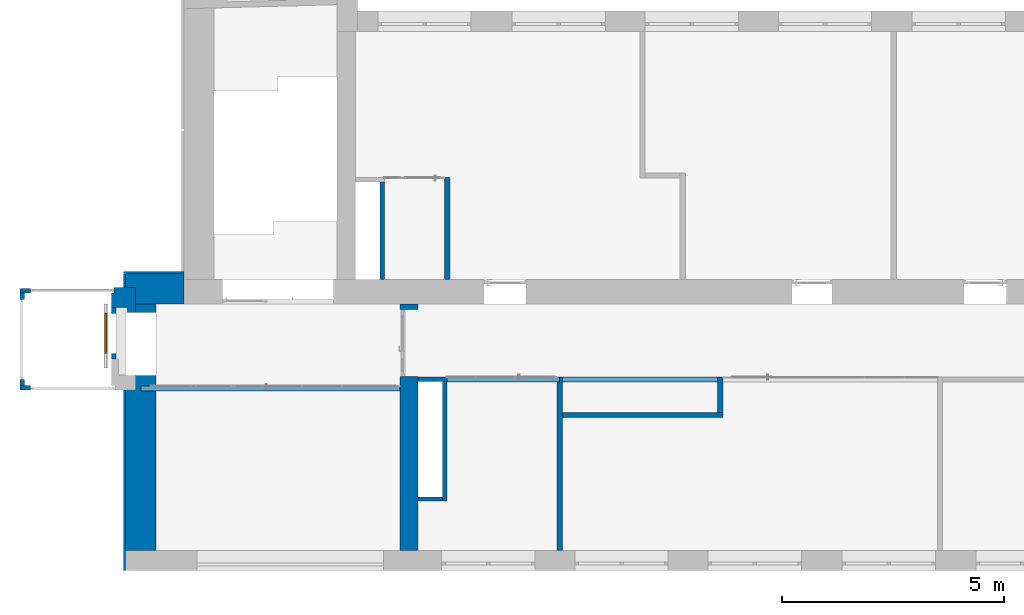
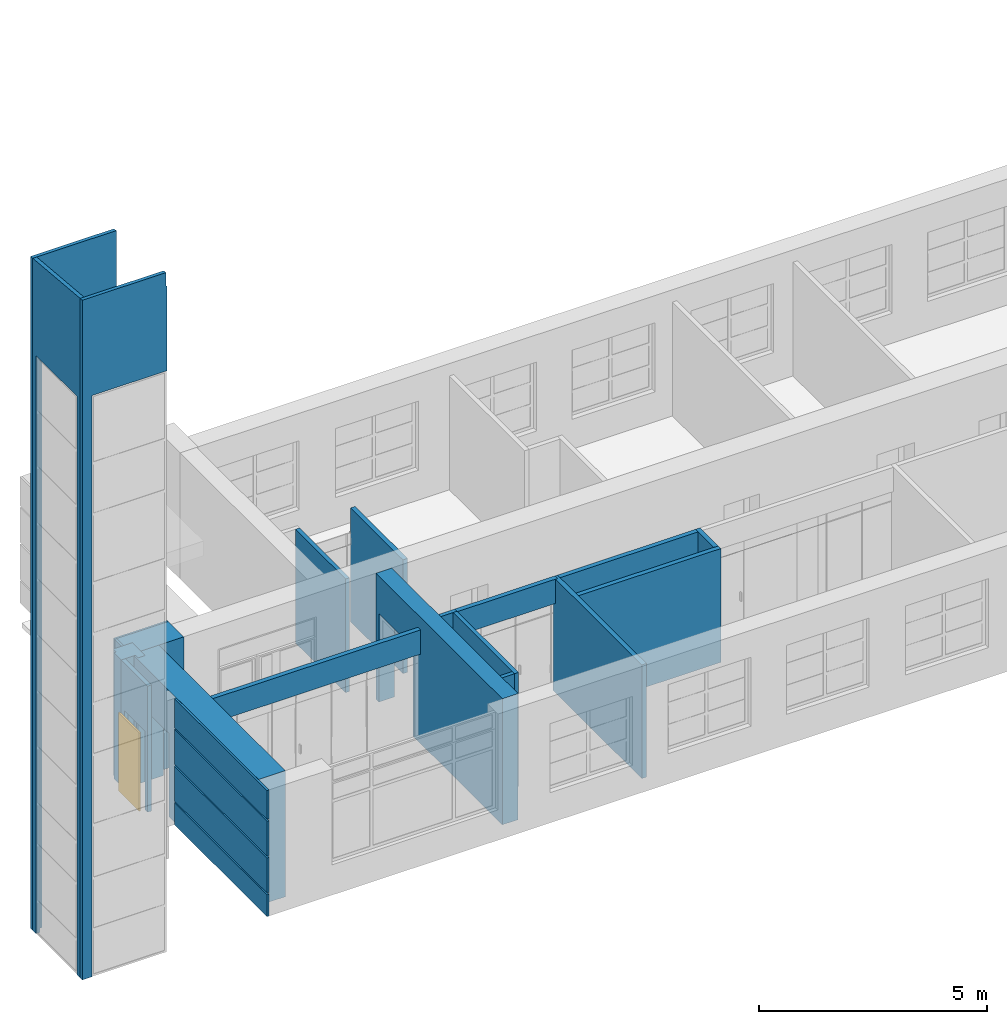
# One storey, part 43 of 66: 21 walls, 1 door, 11 openings.
"""IFC2X3 building model written with IfcOpenShell, lengths in millimetres."""

from ifc_helpers import new_model, entity, si_unit, converted_unit, derived_unit, direction, frame, frame_2d, origin, origin_2d_with_axis, place, context, subcontext, project, spatial, polyline, rectangle, outline, extrude, clip, bounded_halfspace, faceted_brep, source, transform, mapped, material, layer, layer_set, layer_usage, type_object, type_shapes, element, fill, save


model = new_model("IFC2X3")

# Units and contexts
model_context = context("Model", 3, precision=0.01, world=origin(), true_north=direction((6.12303176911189e-17, 1.0)))
body_context = subcontext(model_context, "Body", "Model", "MODEL_VIEW")
ifc_project = project(units=[si_unit("LENGTHUNIT", "METRE", prefix="MILLI"), si_unit("AREAUNIT", "SQUARE_METRE"), si_unit("VOLUMEUNIT", "CUBIC_METRE"), converted_unit("PLANEANGLEUNIT", "DEGREE", entity("IfcRatioMeasure", 0.0174532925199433), si_unit("PLANEANGLEUNIT", "RADIAN"), dimensions=[0, 0, 0, 0, 0, 0, 0]), si_unit("MASSUNIT", "GRAM", prefix="KILO"), derived_unit("MASSDENSITYUNIT", [(si_unit("MASSUNIT", "GRAM", prefix="KILO"), 1), (si_unit("LENGTHUNIT", "METRE"), -3)]), si_unit("TIMEUNIT", "SECOND"), si_unit("FREQUENCYUNIT", "HERTZ"), si_unit("THERMODYNAMICTEMPERATUREUNIT", "DEGREE_CELSIUS"), derived_unit("THERMALTRANSMITTANCEUNIT", [(si_unit("MASSUNIT", "GRAM", prefix="KILO"), 1), (si_unit("THERMODYNAMICTEMPERATUREUNIT", "KELVIN"), -1), (si_unit("TIMEUNIT", "SECOND"), -3)]), derived_unit("VOLUMETRICFLOWRATEUNIT", [(si_unit("LENGTHUNIT", "METRE"), 3), (si_unit("TIMEUNIT", "SECOND"), -1)]), si_unit("ELECTRICCURRENTUNIT", "AMPERE"), si_unit("ELECTRICVOLTAGEUNIT", "VOLT"), si_unit("POWERUNIT", "WATT"), si_unit("FORCEUNIT", "NEWTON", prefix="KILO"), si_unit("ILLUMINANCEUNIT", "LUX"), si_unit("LUMINOUSFLUXUNIT", "LUMEN"), si_unit("LUMINOUSINTENSITYUNIT", "CANDELA"), derived_unit("USERDEFINED", [(si_unit("MASSUNIT", "GRAM", prefix="KILO"), -1), (si_unit("LENGTHUNIT", "METRE"), -2), (si_unit("TIMEUNIT", "SECOND"), 3), (si_unit("LUMINOUSFLUXUNIT", "LUMEN"), 1)]), derived_unit("LINEARVELOCITYUNIT", [(si_unit("LENGTHUNIT", "METRE"), 1), (si_unit("TIMEUNIT", "SECOND"), -1)]), si_unit("PRESSUREUNIT", "PASCAL"), derived_unit("USERDEFINED", [(si_unit("LENGTHUNIT", "METRE"), -2), (si_unit("MASSUNIT", "GRAM", prefix="KILO"), 1), (si_unit("TIMEUNIT", "SECOND"), -2)])], contexts=[model_context])

# Site, building, storey
site_placement = place(None, frame((-151.875543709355, 2715.0, 0.0)))
site = spatial("IfcSite", under=ifc_project, at=site_placement, Name="Surface", CompositionType="ELEMENT")
building_placement = place(site_placement, origin())
building = spatial("IfcBuilding", under=site, at=building_placement, CompositionType="ELEMENT")
storey_placement = place(building_placement, frame((0.0, 0.0, 3350.0)))
storey = spatial("IfcBuildingStorey", under=building, at=storey_placement, Name="2 korrus", CompositionType="ELEMENT", Elevation=3350.00000000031)

# Wall
ifc_material_1 = material(Name="Paint - Sand Beige")
wall_type_1 = type_object("IfcWallType", Name="SEIN - 008", PredefinedType="NOTDEFINED", material=ifc_material_1)
wall_1_placement = place(storey_placement, frame((-541.883383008, 5811.79428101, 0.0), z_axis=(0.0, 0.0, 1.0), x_axis=(0.0, 1.0, 0.0)))
element("IfcWall", 1, at=wall_1_placement, inside=storey, type_object=wall_type_1, material=ifc_material_1, Name="SEIN - 008 48780:SEIN - 008 48780", ObjectType="SEIN - 008 48780:SEIN - 008 48780", context=body_context, shape_type="SweptSolid", body=[
    extrude(outline(polyline([(-157.552994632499, -240.085415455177), (163.395247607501, -240.085415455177), (163.395247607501, 118.497317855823), (281.7118979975, 118.497317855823), (281.7118979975, 301.673513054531), (-287.554150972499, 301.673513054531), (-287.554150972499, -180.085415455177), (-157.552994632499, -180.085415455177), (-157.552994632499, -240.085415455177)])), frame((281.7118979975, -240.085415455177, 0.0), z_axis=(0.0, 0.0, 1.0), x_axis=(-1.0, 0.0, 0.0)), (0.0, 0.0, 1.0), 3380.43203354),
])

# Wall, opening, door
ifc_material_2 = material(Name="Tellis")
ifc_layer_1 = layer(ifc_material_2, 90.0)
ifc_material_3 = material(Name="__Hall krohv")
ifc_layer_2 = layer(ifc_material_3, 10.0)
ifc_layer_set_1 = layer_set([ifc_layer_1, ifc_layer_2], Name="Basic Wall:SS-01_ol.olev tellissein100")
ifc_layer_usage_1 = layer_usage(ifc_layer_set_1, "AXIS2", "NEGATIVE", 50.0)
wall_type_2 = type_object("IfcWallType", Name="Basic Wall:SS-01_ol.olev tellissein100", PredefinedType="STANDARD", material=ifc_layer_set_1)
wall_2_placement = place(storey_placement, frame((-491.883383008, 4771.38562567, 0.0), z_axis=(0.0, 0.0, 1.0), x_axis=(0.0, 1.0, 0.0)))
wall_2 = element("IfcWallStandardCase", 2, at=wall_2_placement, inside=storey, type_object=wall_type_2, material=ifc_layer_usage_1, Name="SEIN - 008", ObjectType="Basic Wall:SS-01_ol.olev tellissein100", context=body_context, shape_type="SweptSolid", body=[
    extrude(rectangle(XDim=1158.72530573, YDim=100.0, at=frame_2d((579.362652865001, 0.0), x_axis=(-1.0, 0.0))), origin(), (0.0, 0.0, 1.0), 3380.43203354),
])
opening_1_placement = place(wall_2_placement, frame((-4771.38562567, -491.883383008, 0.0), z_axis=(0.0, 0.0, 1.0), x_axis=(0.0, -1.0, 0.0)))
opening_1 = element("IfcOpeningElement", 3, at=opening_1_placement, cuts=wall_2, Name="SEIN - 008", ObjectType="Opening", context=body_context, shape_type="SweptSolid", body=[
    extrude(rectangle(XDim=2100.0, YDim=903.930664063, at=frame_2d((5.40012479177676e-13, -2.27373675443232e-13), x_axis=(0.0, 1.0))), frame((-338.883383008, 5344.60067749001, 1050.0), z_axis=(-1.0, 0.0, 0.0), x_axis=(0.0, -1.0, 0.0)), (0.0, 0.0, 1.0), 306.0),
])
ifc_material_4 = material(Name="Wood - Pine Grained Horizontal")
door_style = type_object("IfcDoorStyle", Name="liftiuks", ConstructionType="NOTDEFINED", OperationType="NOTDEFINED", ParameterTakesPrecedence=False, Sizeable=False, material=ifc_material_4)
shared_shape = source(origin(), body_context, "Body", "SweptSolid", [
    extrude(rectangle(XDim=451.965332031, YDim=40.0, at=origin_2d_with_axis()), frame((225.982666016, 22.0, 0.0), z_axis=(0.0, 0.0, 1.0), x_axis=(-1.0, 0.0, 0.0)), (0.0, 0.0, 1.0), 2100.0),
    extrude(rectangle(XDim=40.0, YDim=451.965332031, at=origin_2d_with_axis()), frame((677.947998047, 22.0, 0.0), z_axis=(0.0, 0.0, 1.0), x_axis=(0.0, 1.0, 0.0)), (0.0, 0.0, 1.0), 2100.0),
])
type_shapes(door_style, [shared_shape])
door_placement = place(opening_1_placement, frame((-644.883383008, 4892.63534545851, 0.0), z_axis=(0.0, 0.0, 1.0), x_axis=(0.0, 1.0, 0.0)))
door = element("IfcDoor", 4, at=door_placement, inside=storey, type_object=door_style, material=ifc_material_4, Name="liftiuks:liftiuks", ObjectType="liftiuks", OverallHeight=2100.0, OverallWidth=903.930664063, context=body_context, shape_type="MappedRepresentation", body=[
    mapped(shared_shape, transform((0.0, 0.0, 0.0), scale=1.0)),
])
fill(opening_1, door)

# Wall, opening
ifc_material_5 = material(Name="__Tuuletõkkeplaat")
ifc_layer_3 = layer(ifc_material_5, 9.0)
ifc_material_6 = material(Name="__Soojustus EPS")
ifc_layer_4 = layer(ifc_material_6, 200.0)
ifc_material_7 = material(Name="Brick, Common")
ifc_layer_5 = layer(ifc_material_7, 450.0)
ifc_material_8 = material(Name="__Kips GN13_tava")
ifc_layer_6 = layer(ifc_material_8, 20.0)
ifc_layer_set_2 = layer_set([ifc_layer_3, ifc_layer_4, ifc_layer_5, ifc_layer_6], Name="Basic Wall:VS-2_olemasolev sein fassaadikassettidega")
ifc_layer_usage_2 = layer_usage(ifc_layer_set_2, "AXIS2", "NEGATIVE", 339.5)
wall_type_3 = type_object("IfcWallType", Name="Basic Wall:VS-2_olemasolev sein fassaadikassettidega", PredefinedType="STANDARD", material=ifc_layer_set_2)
wall_3_placement = place(storey_placement, frame((120.375545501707, 459.904632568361, 0.0), z_axis=(0.0, 0.0, 1.0), x_axis=(0.0, 1.0, 0.0)))
wall_3 = element("IfcWallStandardCase", 5, at=wall_3_placement, inside=storey, type_object=wall_type_3, material=ifc_layer_usage_2, Name="SEIN - 001", ObjectType="Basic Wall:VS-2_olemasolev sein fassaadikassettidega", context=body_context, shape_type="SweptSolid", body=[
    extrude(rectangle(XDim=5550.09536743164, YDim=679.0, at=frame_2d((2775.04768371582, -5.6843418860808e-14), x_axis=(-1.0, 0.0))), origin(), (0.0, 0.0, 1.0), 3380.43203354),
])
opening_2_placement = place(wall_3_placement, origin())
element("IfcOpeningElement", 6, at=opening_2_placement, cuts=wall_3, Name="SEIN - 001", ObjectType="Opening", context=body_context, shape_type="SweptSolid", body=[
    extrude(rectangle(XDim=2230.0, YDim=1410.5172629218, at=frame_2d((0.0, -5.6843418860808e-13), x_axis=(1.0, 0.0))), frame((4646.6310169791, -339.5, 1115.0), z_axis=(0.0, 1.0, 0.0), x_axis=(0.0, 0.0, -1.0)), (0.0, 0.0, 1.0), 679.0),
])

# Wall
ifc_layer_usage_3 = layer_usage(ifc_layer_set_2, "AXIS2", "NEGATIVE", 339.5)
wall_4_placement = place(storey_placement, frame((-219.124454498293, 6349.5, 0.0)))
element("IfcWallStandardCase", 7, at=wall_4_placement, inside=storey, type_object=wall_type_3, material=ifc_layer_usage_3, Name="SEIN - 002", ObjectType="Basic Wall:VS-2_olemasolev sein fassaadikassettidega", context=body_context, shape_type="SweptSolid", body=[
    extrude(rectangle(XDim=1310.12445449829, YDim=678.999999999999, at=frame_2d((655.062227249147, 0.0), x_axis=(-1.0, 0.0))), origin(), (0.0, 0.0, 1.0), 3380.43203354),
])

# Wall, openings
ifc_material_9 = material(Name="Lifti sein_hall")
ifc_layer_7 = layer(ifc_material_9, 100.0)
ifc_layer_set_3 = layer_set([ifc_layer_7], Name="Basic Wall:ol.olev liftišahti sein")
ifc_layer_usage_4 = layer_usage(ifc_layer_set_3, "AXIS2", "NEGATIVE", 50.0)
wall_type_4 = type_object("IfcWallType", Name="Basic Wall:ol.olev liftišahti sein", PredefinedType="STANDARD", material=ifc_layer_set_3)
wall_5_placement = place(storey_placement, frame((-459.743595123, 4121.05917364, -3350.0), z_axis=(0.0, 0.0, 1.0), x_axis=(-1.0, 0.0, 0.0)))
wall_5 = element("IfcWallStandardCase", 8, at=wall_5_placement, inside=storey, type_object=wall_type_4, material=ifc_layer_usage_4, Name="SEIN - 006", ObjectType="Basic Wall:ol.olev liftišahti sein", context=body_context, shape_type="SweptSolid", body=[
    extrude(rectangle(XDim=2140.380859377, YDim=100.0, at=frame_2d((1070.1904296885, 0.0), x_axis=(-1.0, 0.0))), origin(), (0.0, 0.0, 1.0), 18219.5075525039),
])
opening_3_placement = place(wall_5_placement, frame((19821.7441181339, 17046.8201727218, 16384.3630317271)))
element("IfcOpeningElement", 9, at=opening_3_placement, cuts=wall_5, Name="SEIN - 006", ObjectType="Opening", context=body_context, shape_type="Brep", body=[
    faceted_brep([(-19799.6043302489, -17106.8201727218, 22117.4863914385), (-19799.6043302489, -16986.8201727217, 22173.5767483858), (-54849.5495283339, -16986.8201727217, 22173.5767483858), (-54849.5495283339, -17106.8201727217, 22117.4863914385), (-19799.6043302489, -17106.8201727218, 1418.61529187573), (-54849.5495283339, -17106.8201727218, 1418.61529187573), (-54849.5495283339, -16986.8201727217, 1474.70564882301), (-19799.6043302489, -16986.8201727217, 1474.70564882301), (-19799.6043302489, -16986.8201727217, 1836.04609951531), (-19799.6043302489, -17106.8201727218, 1825.22715465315), (-19799.6043302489, -16986.8201727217, 20663.6560064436), (-37503.1073768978, -16986.8201727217, 20663.6560064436), (-37503.1073768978, -16986.8201727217, 1836.04609951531), (-37503.1073768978, -17106.8201727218, 1825.22715465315), (-37503.1073768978, -17106.8201727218, 20652.8370615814), (-19799.6043302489, -17106.8201727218, 20652.8370615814), (0.0, -39035.3802598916, 18675.8047074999), (0.0, -1683.77084489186, 22043.3463972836), (-37503.1073768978, -1683.77084489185, 22043.3463972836), (-37503.1073768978, -39035.3802598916, 18675.8047074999), (0.0, -37351.6094149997, 0.0), (-37503.1073768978, -37351.6094149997, 0.0), (-37503.1073768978, 0.0, 3367.54168978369), (0.0, 0.0, 3367.54168978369)], [[[0, 1, 2, 3]], [[4, 5, 6, 7]], [[7, 8, 9, 4]], [[1, 10, 11, 12, 8, 7, 6, 2]], [[2, 6, 5, 3]], [[3, 5, 4, 9, 13, 14, 15, 0]], [[16, 17, 18, 11, 10, 15, 14, 19]], [[20, 21, 13, 9, 8, 12, 22, 23]], [[16, 20, 23, 17]], [[17, 23, 22, 18]], [[19, 14, 13, 21]], [[19, 21, 20, 16]], [[22, 12, 11, 18]], [[0, 15, 10, 1]]]),
])
opening_4_placement = place(wall_5_placement, frame((-459.743595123, 4121.05917364, 3350.0), z_axis=(0.0, 0.0, 1.0), x_axis=(-1.0, 0.0, 0.0)))
element("IfcOpeningElement", 10, at=opening_4_placement, cuts=wall_5, Name="SEIN - 006", ObjectType="Opening", context=body_context, shape_type="SweptSolid", body=[
    extrude(rectangle(XDim=15579.7043135, YDim=1900.0, at=frame_2d((4.54747350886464e-13, 0.0), x_axis=(1.0, 0.0))), frame((-1409.743595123, 4272.95917364, 4439.85215673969), z_axis=(0.0, -1.0, 0.0), x_axis=(0.0, 0.0, 1.0)), (0.0, 0.0, 1.0), 303.0),
])

ifc_layer_usage_5 = layer_usage(ifc_layer_set_3, "AXIS2", "NEGATIVE", 50.0)
wall_6_placement = place(storey_placement, frame((-2600.1244545, 6301.05917364, -3350.0)))
wall_6 = element("IfcWallStandardCase", 11, at=wall_6_placement, inside=storey, type_object=wall_type_4, material=ifc_layer_usage_5, Name="SEIN - 008", ObjectType="Basic Wall:ol.olev liftišahti sein", context=body_context, shape_type="SweptSolid", body=[
    extrude(rectangle(XDim=2118.24107149, YDim=99.9999999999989, at=frame_2d((1059.120535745, 0.0), x_axis=(-1.0, 0.0))), origin(), (0.0, 0.0, 1.0), 18022.9633874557),
])
opening_5_placement = place(wall_6_placement, frame((0.0, -60.0, 18013.046021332)))
element("IfcOpeningElement", 12, at=opening_5_placement, cuts=wall_6, Name="SEIN - 008", ObjectType="Opening", context=body_context, shape_type="Brep", body=[
    faceted_brep([(2600.01, 0.0, 18835.862710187), (2600.01, 120.0, 18825.0437653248), (0.0, 120.0, 18825.0437653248), (0.0, 0.0, 18835.862710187), (2600.01, 0.0, 10.8189448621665), (0.0, 0.0, 10.8189448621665), (0.0, 120.0, 0.0), (2600.01, 120.0, 0.0)], [[[0, 1, 2, 3]], [[4, 5, 6, 7]], [[4, 7, 1, 0]], [[7, 6, 2, 1]], [[6, 5, 3, 2]], [[5, 4, 0, 3]]]),
])
opening_6_placement = place(wall_6_placement, frame((2600.1244545, -6301.05917364, 3350.0)))
element("IfcOpeningElement", 13, at=opening_6_placement, cuts=wall_6, Name="SEIN - 008", ObjectType="Opening", context=body_context, shape_type="SweptSolid", body=[
    extrude(rectangle(XDim=15579.7043135, YDim=1877.86021211, at=frame_2d((0.0, 0.0), x_axis=(0.0, 1.0))), frame((-1420.813489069, 6149.15917364, 4439.85215673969), z_axis=(0.0, 1.0, 0.0), x_axis=(1.0, 0.0, 0.0)), (0.0, 0.0, 1.0), 303.0),
])

ifc_layer_usage_6 = layer_usage(ifc_layer_set_3, "AXIS2", "NEGATIVE", 50.0)
wall_7_placement = place(storey_placement, frame((-2550.1244545, 4171.05917364, -3350.0), z_axis=(0.0, 0.0, 1.0), x_axis=(0.0, 1.0, 0.0)))
wall_7 = element("IfcWallStandardCase", 14, at=wall_7_placement, inside=storey, type_object=wall_type_4, material=ifc_layer_usage_6, Name="SEIN - 007", ObjectType="Basic Wall:ol.olev liftišahti sein", context=body_context, shape_type="SweptSolid", body=[
    extrude(rectangle(XDim=2080.0, YDim=100.0, at=frame_2d((1040.0, 0.0), x_axis=(-1.0, 0.0))), origin(), (0.0, 0.0, 1.0), 18210.4917651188),
])
opening_7_placement = place(wall_7_placement, origin())
element("IfcOpeningElement", 15, at=opening_7_placement, cuts=wall_7, Name="SEIN - 007", ObjectType="Opening", context=body_context, shape_type="SweptSolid", body=[
    extrude(rectangle(XDim=18768.2745218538, YDim=37536.5490437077, at=origin_2d_with_axis()), frame((3502.83210505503, -18768.2745218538, 27316.8831500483), z_axis=(0.0, 1.0, 0.0), x_axis=(-0.0897936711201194, 0.0, -0.995960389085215)), (0.0, 0.0, 1.0), 37536.5490437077),
])
opening_8_placement = place(wall_7_placement, frame((-4171.05917364, -2550.1244545, 3350.0), z_axis=(0.0, 0.0, 1.0), x_axis=(0.0, -1.0, 0.0)))
element("IfcOpeningElement", 16, at=opening_8_placement, cuts=wall_7, Name="SEIN - 007", ObjectType="Opening", context=body_context, shape_type="SweptSolid", body=[
    extrude(rectangle(XDim=15500.0, YDim=1800.0, at=origin_2d_with_axis()), frame((-2398.2244545, 5211.05917364, 4400.0), z_axis=(-1.0, 0.0, 0.0), x_axis=(0.0, 0.0, -1.0)), (0.0, 0.0, 1.0), 303.0),
])

ifc_layer_8 = layer(ifc_material_3, 10.0)
ifc_layer_9 = layer(ifc_material_2, 380.0)
ifc_layer_10 = layer(ifc_material_3, 10.0)
ifc_layer_set_4 = layer_set([ifc_layer_8, ifc_layer_9, ifc_layer_10], Name="Basic Wall:SS-01_ol.olev tellissein400")
ifc_layer_usage_7 = layer_usage(ifc_layer_set_4, "AXIS2", "NEGATIVE", 200.0)
wall_type_5 = type_object("IfcWallType", Name="Basic Wall:SS-01_ol.olev tellissein400", PredefinedType="STANDARD", material=ifc_layer_set_4)
wall_8_placement = place(storey_placement, frame((6162.49352943, 459.904632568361, 0.0), z_axis=(0.0, 0.0, 1.0), x_axis=(0.0, 1.0, 0.0)))
wall_8 = element("IfcWallStandardCase", 17, at=wall_8_placement, inside=storey, type_object=wall_type_5, material=ifc_layer_usage_7, Name="SEIN - 001", ObjectType="Basic Wall:SS-01_ol.olev tellissein400", context=body_context, shape_type="SweptSolid", body=[
    extrude(rectangle(XDim=5550.09536743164, YDim=400.0, at=frame_2d((2775.04768371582, 0.0), x_axis=(-1.0, 0.0))), origin(), (0.0, 0.0, 1.0), 3380.43203354),
])
opening_9_placement = place(wall_8_placement, origin())
element("IfcOpeningElement", 18, at=opening_9_placement, cuts=wall_8, Name="SEIN - 001", ObjectType="Opening", context=body_context, shape_type="SweptSolid", body=[
    extrude(rectangle(XDim=2371.07076645, YDim=1510.16235352, at=origin_2d_with_axis()), frame((4671.45356888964, -200.0, 1185.53538322), z_axis=(0.0, 1.0, 0.0), x_axis=(0.0, 0.0, -1.0)), (0.0, 0.0, 1.0), 800.0),
])
opening_10_placement = place(wall_8_placement, origin())
element("IfcOpeningElement", 19, at=opening_10_placement, cuts=wall_8, Name="SEIN - 001", ObjectType="Opening", context=body_context, shape_type="SweptSolid", body=[
    extrude(rectangle(XDim=2199.99999999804, YDim=1500.0, at=frame_2d((0.0, 5.11590769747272e-13), x_axis=(1.0, 0.0))), frame((4666.37239212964, -1724.0, 4480.42999999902), z_axis=(0.0, 1.0, 0.0), x_axis=(0.0, 0.0, 1.0)), (0.0, 0.0, 1.0), 3048.0),
])
opening_11_placement = place(wall_8_placement, frame((3916.37239212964, -200.0, 0.0)))
element("IfcOpeningElement", 20, at=opening_11_placement, cuts=wall_8, Name="Kahepoolsed:SU-22:1", ObjectType="Opening", context=body_context, shape_type="SweptSolid", body=[
    extrude(rectangle(XDim=2359.99999999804, YDim=1500.0, at=frame_2d((1179.99999999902, 750.0), x_axis=(1.0, 0.0))), frame((0.0, 0.0, 0.0), z_axis=(0.0, 1.0, 0.0), x_axis=(0.0, 0.0, 1.0)), (0.0, 0.0, 1.0), 400.0),
])

# Walls
ifc_layer_11 = layer(ifc_material_8, 12.5)
ifc_layer_12 = layer(ifc_material_8, 12.5)
ifc_layer_13 = layer(ifc_material_6, 66.0)
ifc_layer_14 = layer(ifc_material_8, 12.5)
ifc_layer_15 = layer(ifc_material_8, 12.5)
ifc_layer_set_5 = layer_set([ifc_layer_11, ifc_layer_12, ifc_layer_13, ifc_layer_14, ifc_layer_15], Name="Basic Wall:SS-3_Kipssein tava ruumide vahel")
ifc_layer_usage_8 = layer_usage(ifc_layer_set_5, "AXIS2", "NEGATIVE", 58.0)
wall_type_6 = type_object("IfcWallType", Name="Basic Wall:SS-3_Kipssein tava ruumide vahel", PredefinedType="STANDARD", material=ifc_layer_set_5)
wall_9_placement = place(storey_placement, frame((9557.56472640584, 459.904632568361, 0.0), z_axis=(0.0, 0.0, 1.0), x_axis=(0.0, 1.0, 0.0)))
element("IfcWallStandardCase", 21, at=wall_9_placement, inside=storey, type_object=wall_type_6, material=ifc_layer_usage_8, Name="Basic Wall:SS-3_Kipssein tava ruumide vahel", ObjectType="Basic Wall:SS-3_Kipssein tava ruumide vahel", context=body_context, shape_type="SweptSolid", body=[
    extrude(rectangle(XDim=3905.14030142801, YDim=116.0, at=frame_2d((1952.57015071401, 0.0), x_axis=(-1.0, 0.0))), origin(), (0.0, 0.0, 1.0), 3050.0),
])
ifc_layer_usage_9 = layer_usage(ifc_layer_set_5, "AXIS2", "NEGATIVE", 58.0)
wall_10_placement = place(storey_placement, frame((120.375545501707, 4107.0414627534, 2400.0)))
element("IfcWallStandardCase", 22, at=wall_10_placement, inside=storey, type_object=wall_type_6, material=ifc_layer_usage_9, Name="Basic Wall:SS-3_Kipssein tava ruumide vahel", ObjectType="Basic Wall:SS-3_Kipssein tava ruumide vahel", context=body_context, shape_type="SweptSolid", body=[
    extrude(rectangle(XDim=5842.11798392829, YDim=116.0, at=frame_2d((2921.05899196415, -6.75015598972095e-14), x_axis=(-1.0, 0.0))), origin(), (0.0, 0.0, 1.0), 650.432033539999),
])
ifc_layer_usage_10 = layer_usage(ifc_layer_set_5, "AXIS2", "NEGATIVE", 58.0)
wall_11_placement = place(storey_placement, frame((7012.49352943, 4307.04493399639, 2400.0)))
element("IfcWallStandardCase", 23, at=wall_11_placement, inside=storey, type_object=wall_type_6, material=ifc_layer_usage_10, Name="Basic Wall:SS-3_Kipssein tava ruumide vahel", ObjectType="Basic Wall:SS-3_Kipssein tava ruumide vahel", context=body_context, shape_type="SweptSolid", body=[
    extrude(rectangle(XDim=2545.07119697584, YDim=116.0, at=frame_2d((1272.53559848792, 6.3948846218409e-14), x_axis=(-1.0, 0.0))), origin(), (0.0, 0.0, 1.0), 650.432033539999),
])
ifc_layer_usage_11 = layer_usage(ifc_layer_set_5, "AXIS2", "POSITIVE", -58.0)
wall_12_placement = place(storey_placement, frame((9615.56472640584, 3507.04493399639, 0.0)))
element("IfcWallStandardCase", 24, at=wall_12_placement, inside=storey, type_object=wall_type_6, material=ifc_layer_usage_11, Name="Basic Wall:SS-3_Kipssein tava ruumide vahel", ObjectType="Basic Wall:SS-3_Kipssein tava ruumide vahel", context=body_context, shape_type="SweptSolid", body=[
    extrude(rectangle(XDim=3616.00000000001, YDim=116.0, at=frame_2d((1808.0, 1.95399252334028e-13), x_axis=(-1.0, 0.0))), origin(), (0.0, 0.0, 1.0), 3050.0),
])
ifc_layer_usage_12 = layer_usage(ifc_layer_set_5, "AXIS2", "POSITIVE", -58.0)
wall_13_placement = place(storey_placement, frame((13173.5647264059, 3565.0449339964, 0.0), z_axis=(0.0, 0.0, 1.0), x_axis=(0.0, 1.0, 0.0)))
element("IfcWallStandardCase", 25, at=wall_13_placement, inside=storey, type_object=wall_type_6, material=ifc_layer_usage_12, Name="Basic Wall:SS-3_Kipssein tava ruumide vahel", ObjectType="Basic Wall:SS-3_Kipssein tava ruumide vahel", context=body_context, shape_type="SweptSolid", body=[
    extrude(rectangle(XDim=799.999999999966, YDim=116.0, at=frame_2d((399.999999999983, 0.0), x_axis=(-1.0, 0.0))), origin(), (0.0, 0.0, 1.0), 3050.0),
])
ifc_layer_usage_13 = layer_usage(ifc_layer_set_5, "AXIS2", "NEGATIVE", 58.0)
wall_14_placement = place(storey_placement, frame((7023.82447346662, 8860.0, 0.0), z_axis=(0.0, 0.0, 1.0), x_axis=(0.0, -1.0, 0.0)))
element("IfcWallStandardCase", 26, at=wall_14_placement, inside=storey, type_object=wall_type_6, material=ifc_layer_usage_13, Name="Basic Wall:SS-3_Kipssein tava ruumide vahel", ObjectType="Basic Wall:SS-3_Kipssein tava ruumide vahel", context=body_context, shape_type="SweptSolid", body=[
    extrude(rectangle(XDim=2299.99999999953, YDim=116.0, at=frame_2d((1149.99999999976, -3.48165940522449e-13), x_axis=(-1.0, 0.0))), origin(), (0.0, 0.0, 1.0), 3050.0),
])
ifc_layer_usage_14 = layer_usage(ifc_layer_set_5, "AXIS2", "NEGATIVE", 58.0)
wall_15_placement = place(storey_placement, frame((9557.56472640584, 4307.04493399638, 2400.0)))
element("IfcWallStandardCase", 27, at=wall_15_placement, inside=storey, type_object=wall_type_6, material=ifc_layer_usage_14, Name="Basic Wall:SS-3_Kipssein tava ruumide vahel", ObjectType="Basic Wall:SS-3_Kipssein tava ruumide vahel", context=body_context, shape_type="SweptSolid", body=[
    extrude(rectangle(XDim=3500.00000000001, YDim=116.0, at=frame_2d((1808.0, -1.74082970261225e-13), x_axis=(-1.0, 0.0))), origin(), (0.0, 0.0, 1.0), 650.432033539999),
])
ifc_material_10 = material(Name="__Helehall")
ifc_layer_16 = layer(ifc_material_10, 10.0)
ifc_material_11 = material(Name="__Kergblokk")
ifc_layer_17 = layer(ifc_material_11, 90.0)
ifc_layer_set_6 = layer_set([ifc_layer_16, ifc_layer_17], Name="Basic Wall:SS-6_Šahti sein EI-60")
ifc_layer_usage_15 = layer_usage(ifc_layer_set_6, "AXIS2", "NEGATIVE", 50.0)
wall_type_7 = type_object("IfcWallType", Name="Basic Wall:SS-6_Šahti sein EI-60", PredefinedType="STANDARD", material=ifc_layer_set_6)
wall_16_placement = place(storey_placement, frame((5560.07439884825, 8760.0, 0.0), z_axis=(0.0, 0.0, 1.0), x_axis=(0.0, -1.0, 0.0)))
element("IfcWallStandardCase", 28, at=wall_16_placement, inside=storey, type_object=wall_type_7, material=ifc_layer_usage_15, Name="Basic Wall:SS-6_Šahti sein EI-60", ObjectType="Basic Wall:SS-6_Šahti sein EI-60", context=body_context, shape_type="Clipping", body=[
    clip(extrude(rectangle(XDim=2200.0, YDim=99.9999999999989, at=frame_2d((1100.0, 7.8159700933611e-14), x_axis=(-1.0, 0.0))), origin(), (0.0, 0.0, 1.0), 3050.43203354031), bounded_halfspace(frame((0.0, -50.0, 3050.43203354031), z_axis=(0.0, 0.0, -1.0), x_axis=(-1.0, 0.0, 0.0)), True, frame((0.0, -50.0, 3050.43203354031)), polyline([(0.0, 0.0), (2200.0, 0.0), (2200.0, 100.0), (0.0, 100.0), (0.0, 0.0)]))),
])
ifc_layer_usage_16 = layer_usage(ifc_layer_set_6, "AXIS2", "NEGATIVE", 50.0)
wall_17_placement = place(storey_placement, frame((6362.49352943, 4314.79940713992, 0.0)))
element("IfcWallStandardCase", 29, at=wall_17_placement, inside=storey, type_object=wall_type_7, material=ifc_layer_usage_16, Name="Basic Wall:SS-6_Šahti sein EI-60", ObjectType="Basic Wall:SS-6_Šahti sein EI-60", context=body_context, shape_type="Clipping", body=[
    clip(extrude(rectangle(XDim=650.000000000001, YDim=100.0, at=frame_2d((325.0, -2.48689957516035e-14), x_axis=(-1.0, 0.0))), origin(), (0.0, 0.0, 1.0), 3050.43203354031), bounded_halfspace(frame((0.0, -50.0, 3050.43203354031), z_axis=(0.0, 0.0, -1.0), x_axis=(1.0, 0.0, 0.0)), True, frame((0.0, -50.0, 3050.43203354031)), polyline([(0.0, 0.0), (550.0, 0.0), (650.0, 0.0), (650.0, 100.0), (0.0, 100.0), (0.0, 0.0)]))),
])
ifc_layer_usage_17 = layer_usage(ifc_layer_set_6, "AXIS2", "NEGATIVE", 50.0)
wall_18_placement = place(storey_placement, frame((6962.49352943, 4264.79940713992, 0.0), z_axis=(0.0, 0.0, 1.0), x_axis=(0.0, -1.0, 0.0)))
element("IfcWallStandardCase", 30, at=wall_18_placement, inside=storey, type_object=wall_type_7, material=ifc_layer_usage_17, Name="Basic Wall:SS-6_Šahti sein EI-60", ObjectType="Basic Wall:SS-6_Šahti sein EI-60", context=body_context, shape_type="Clipping", body=[
    clip(extrude(rectangle(XDim=2700.0, YDim=99.9999999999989, at=frame_2d((1350.0, -1.74082970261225e-13), x_axis=(-1.0, 0.0))), origin(), (0.0, 0.0, 1.0), 3050.43203354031), bounded_halfspace(frame((0.0, -50.0, 3050.43203354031), z_axis=(0.0, 0.0, -1.0), x_axis=(0.0, 1.0, 0.0)), True, frame((0.0, -50.0, 3050.43203354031)), polyline([(0.0, 0.0), (2600.0, 0.0), (2700.0, 0.0), (2700.0, 100.0), (15.7544731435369, 100.0), (0.0, 100.0), (0.0, 0.0)]))),
])
ifc_layer_usage_18 = layer_usage(ifc_layer_set_6, "AXIS2", "NEGATIVE", 50.0)
wall_19_placement = place(storey_placement, frame((6912.49352943, 1614.79940713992, 0.0), z_axis=(0.0, 0.0, 1.0), x_axis=(-1.0, 0.0, 0.0)))
element("IfcWallStandardCase", 31, at=wall_19_placement, inside=storey, type_object=wall_type_7, material=ifc_layer_usage_18, Name="Basic Wall:SS-6_Šahti sein EI-60", ObjectType="Basic Wall:SS-6_Šahti sein EI-60", context=body_context, shape_type="Clipping", body=[
    clip(extrude(rectangle(XDim=549.999999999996, YDim=100.0, at=frame_2d((274.999999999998, -5.32907051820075e-14), x_axis=(-1.0, 0.0))), origin(), (0.0, 0.0, 1.0), 3050.43203354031), bounded_halfspace(frame((0.0, -50.0, 3050.43203354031), z_axis=(0.0, 0.0, -1.0), x_axis=(-1.0, 0.0, 0.0)), True, frame((0.0, -50.0, 3050.43203354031)), polyline([(0.0, 0.0), (550.0, 0.0), (550.0, 100.0), (0.0, 100.0), (0.0, 0.0)]))),
])
ifc_material_12 = material(Name="Steel/Aluminium")
wall_type_8 = type_object("IfcWallType", Name="fassaad8.2:fassaad8.2", PredefinedType="NOTDEFINED", material=ifc_material_12)
wall_20_placement = place(storey_placement, frame((-269.124454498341, -0.0953674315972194, 0.0), z_axis=(0.0, 0.0, 1.0), x_axis=(0.0, 1.0, 0.0)))
element("IfcWall", 32, at=wall_20_placement, inside=storey, type_object=wall_type_8, material=ifc_material_12, Name="fassaad8.2:fassaad8.2", ObjectType="fassaad8.2:fassaad8.2", context=body_context, shape_type="SweptSolid", body=[
    extrude(rectangle(XDim=50.0, YDim=4070.90546009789, at=frame_2d((-1.77635683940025e-14, 0.0), x_axis=(1.0, 0.0))), frame((2035.45273004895, -25.0, 1619.99998531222), z_axis=(0.0, 0.0, 1.0), x_axis=(0.0, -1.0, 0.0)), (0.0, 0.0, 1.0), 934.999999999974),
    extrude(rectangle(XDim=50.0, YDim=4070.9054600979, at=frame_2d((-1.77635683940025e-14, 0.0), x_axis=(1.0, 0.0))), frame((2035.45273004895, -25.0, 0.0), z_axis=(0.0, 0.0, 1.0), x_axis=(0.0, -1.0, 0.0)), (0.0, 0.0, 1.0), 585.0),
    extrude(rectangle(XDim=50.0, YDim=4070.90546009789, at=frame_2d((1.77635683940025e-14, 0.0), x_axis=(1.0, 0.0))), frame((2035.45273004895, -25.0, 634.999985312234), z_axis=(0.0, 0.0, 1.0), x_axis=(0.0, -1.0, 0.0)), (0.0, 0.0, 1.0), 934.99999999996),
    extrude(rectangle(XDim=50.0, YDim=303.940826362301, at=origin_2d_with_axis()), frame((6532.87587327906, -25.0, 0.0), z_axis=(0.0, 0.0, 1.0), x_axis=(0.0, -1.0, 0.0)), (0.0, 0.0, 1.0), 585.000000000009),
    extrude(rectangle(XDim=50.0, YDim=303.940826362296, at=frame_2d((-1.77635683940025e-14, 0.0), x_axis=(1.0, 0.0))), frame((6532.87587327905, -25.0, 634.999985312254), z_axis=(0.0, 0.0, 1.0), x_axis=(0.0, -1.0, 0.0)), (0.0, 0.0, 1.0), 934.99999999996),
    extrude(rectangle(XDim=50.0, YDim=303.940826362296, at=origin_2d_with_axis()), frame((6532.87587327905, -25.0, 1619.99998531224), z_axis=(0.0, 0.0, 1.0), x_axis=(0.0, -1.0, 0.0)), (0.0, 0.0, 1.0), 934.999999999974),
    extrude(rectangle(XDim=50.0, YDim=303.940826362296, at=frame_2d((1.77635683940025e-14, 0.0), x_axis=(1.0, 0.0))), frame((6532.87587327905, -25.0, 2604.99998531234), z_axis=(0.0, 0.0, 1.0), x_axis=(0.0, -1.0, 0.0)), (0.0, 0.0, 1.0), 775.000014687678),
    extrude(rectangle(XDim=50.0, YDim=4070.90546009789, at=frame_2d((-1.77635683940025e-14, 0.0), x_axis=(1.0, 0.0))), frame((2035.45273004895, -25.0, 2604.99998531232), z_axis=(0.0, 0.0, 1.0), x_axis=(0.0, -1.0, 0.0)), (0.0, 0.0, 1.0), 775.000014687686),
])
wall_type_9 = type_object("IfcWallType", Name="fassaad10.2:fassaad10.2", PredefinedType="NOTDEFINED", material=ifc_material_12)
wall_21_placement = place(storey_placement, frame((-269.0, 6689.0, 0.0)))
element("IfcWall", 33, at=wall_21_placement, inside=storey, type_object=wall_type_9, material=ifc_material_12, Name="fassaad10.2:fassaad10.2", ObjectType="fassaad10.2:fassaad10.2", context=body_context, shape_type="SweptSolid", body=[
    extrude(rectangle(XDim=49.9999999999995, YDim=1359.99999999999, at=frame_2d((-5.41788836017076e-13, 0.0), x_axis=(1.0, 0.0))), frame((680.0, 25.0, 0.0), z_axis=(0.0, 0.0, 1.0), x_axis=(0.0, -1.0, 0.0)), (0.0, 0.0, 1.0), 585.115269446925),
    extrude(rectangle(XDim=49.9999999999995, YDim=1360.0, at=origin_2d_with_axis()), frame((680.0, 25.0, 635.115269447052), z_axis=(0.0, 0.0, 1.0), x_axis=(0.0, -1.0, 0.0)), (0.0, 0.0, 1.0), 934.999999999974),
    extrude(rectangle(XDim=49.9999999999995, YDim=1360.0, at=frame_2d((-5.41788836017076e-13, 0.0), x_axis=(1.0, 0.0))), frame((680.0, 25.0, 2605.11526944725), z_axis=(0.0, 0.0, 1.0), x_axis=(0.0, -1.0, 0.0)), (0.0, 0.0, 1.0), 774.884730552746),
    extrude(rectangle(XDim=49.9999999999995, YDim=1360.0, at=frame_2d((-1.08357767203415e-12, -5.6843418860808e-14), x_axis=(1.0, 0.0))), frame((680.0, 25.0, 1620.11526944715), z_axis=(0.0, 0.0, 1.0), x_axis=(0.0, -1.0, 0.0)), (0.0, 0.0, 1.0), 934.999999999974),
])

save(model, "model.ifc")
